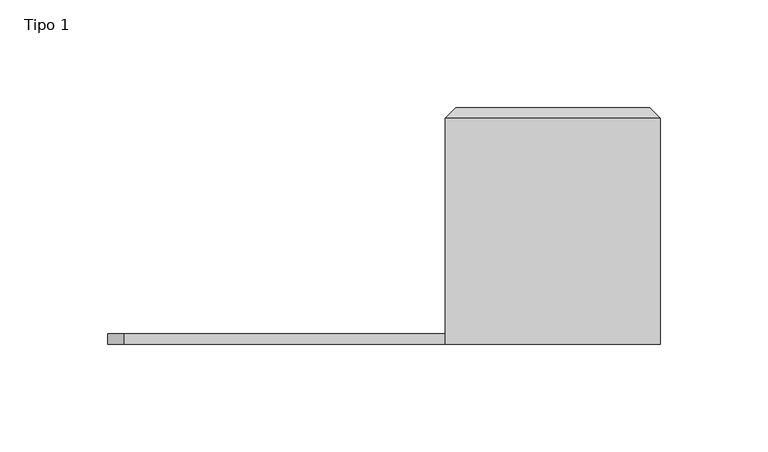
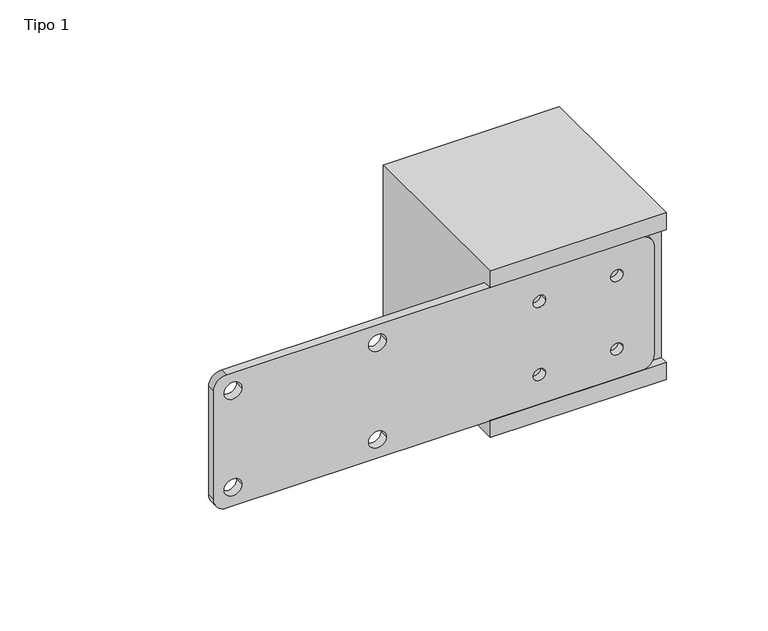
"""IFC4 building model written with IfcOpenShell, lengths in millimetres: proxy geometry, Ercole ANGOLAREorizzontale : Tipo 1."""

from ifc_helpers import new_model, si_unit, point, frame, frame_2d, origin, place, context, project, spatial, polyline, circle_curve, trimmed, segment, composite_curve, outline, extrude, faceted_brep, source, transform, mapped, element, save


def tipo_1_4cdb7944(model_context):
    return source(origin(), model_context, "Body", "SolidModel", [
        extrude(outline(polyline([(175.0, 629.7029033), (70.0, 629.7029033), (70.0, 639.7029304), (75.0, 639.7029304), (75.0, 719.7028762), (70.0, 719.7028762), (70.0, 729.7029033), (175.0, 729.7029033), (175.0, 629.7029033)])), frame((75.0, 0.0, 0.0), z_axis=(1.0, 0.0, 0.0), x_axis=(0.0, 1.0, 0.0)), (0.0, 0.0, 1.0), 100.0),
        faceted_brep([(80.0, 180.0, 724.7029033), (170.0, 180.0, 724.7029033), (170.0, 180.0, 634.7029033), (80.0, 180.0, 634.7029033), (75.0, 175.0, 729.7029033), (75.0, 175.0, 629.7029033), (175.0, 175.0, 629.7029033), (175.0, 175.0, 729.7029033)], [[[0, 1, 2, 3]], [[4, 5, 6, 7]], [[7, 1, 0, 4]], [[6, 2, 1, 7]], [[5, 3, 2, 6]], [[4, 0, 3, 5]]]),
        extrude(outline(composite_curve([segment(polyline([(647.2029304, 168.0888455), (712.2028762, 168.0888455)]), True, "CONTINUOUS"), segment(trimmed(circle_curve(frame_2d((712.2028762, 160.5888455)), 7.5), [point((712.2028762, 168.0888455))], [point((719.7028762, 160.5888455))], False, "CARTESIAN"), True, "CONTINUOUS"), segment(polyline([(719.7028762, 160.5888455), (719.7028762, -74.4107249)]), True, "CONTINUOUS"), segment(trimmed(circle_curve(frame_2d((712.2028762, -74.4107249)), 7.5), [point((719.7028762, -74.4107249))], [point((712.2028762, -81.9107249))], False, "CARTESIAN"), True, "CONTINUOUS"), segment(polyline([(712.2028762, -81.9107249), (647.2029304, -81.9107249)]), True, "CONTINUOUS"), segment(trimmed(circle_curve(frame_2d((647.2029304, -74.4107249)), 7.5), [point((647.2029304, -81.9107249))], [point((639.7029304, -74.4107249))], False, "CARTESIAN"), True, "CONTINUOUS"), segment(polyline([(639.7029304, -74.4107249), (639.7029304, 160.5888455)]), True, "CONTINUOUS"), segment(trimmed(circle_curve(frame_2d((647.2029304, 160.5888455)), 7.5), [point((639.7029304, 160.5888455))], [point((647.2029304, 168.0888455))], False, "CARTESIAN"), True, "CONTINUOUS")], self_intersect=False), holes=[composite_curve([segment(trimmed(circle_curve(frame_2d((650.9481238, 11.0787023)), 5.0), [point((650.9481238, 16.0787023))], [point((650.9481238, 6.0787023))], True, "CARTESIAN"), True, "CONTINUOUS"), segment(trimmed(circle_curve(frame_2d((650.9481238, 11.0787023)), 5.0), [point((650.9481238, 6.0787023))], [point((650.9481238, 16.0787023))], True, "CARTESIAN"), True, "CONTINUOUS")], self_intersect=False), composite_curve([segment(trimmed(circle_curve(frame_2d((708.9483905, 11.0831225)), 5.0), [point((708.9483905, 16.0831225))], [point((708.9483905, 6.0831225))], True, "CARTESIAN"), True, "CONTINUOUS"), segment(trimmed(circle_curve(frame_2d((708.9483905, 11.0831225)), 5.0), [point((708.9483905, 6.0831225))], [point((708.9483905, 16.0831225))], True, "CARTESIAN"), True, "CONTINUOUS")], self_intersect=False), composite_curve([segment(trimmed(circle_curve(frame_2d((701.7029193, 147.0)), 3.5), [point((701.7029193, 143.5))], [point((701.7029193, 150.5))], True, "CARTESIAN"), True, "CONTINUOUS"), segment(trimmed(circle_curve(frame_2d((701.7029193, 147.0)), 3.5), [point((701.7029193, 150.5))], [point((701.7029193, 143.5))], True, "CARTESIAN"), True, "CONTINUOUS")], self_intersect=False), composite_curve([segment(trimmed(circle_curve(frame_2d((657.7032048, 146.9999521)), 3.5), [point((657.7032048, 143.4999521))], [point((657.7032048, 150.4999521))], True, "CARTESIAN"), True, "CONTINUOUS"), segment(trimmed(circle_curve(frame_2d((657.7032048, 146.9999521)), 3.5), [point((657.7032048, 150.4999521))], [point((657.7032048, 143.4999521))], True, "CARTESIAN"), True, "CONTINUOUS")], self_intersect=False), composite_curve([segment(trimmed(circle_curve(frame_2d((701.7029193, 103.0)), 3.5), [point((701.7029193, 106.5))], [point((701.7029193, 99.5))], True, "CARTESIAN"), True, "CONTINUOUS"), segment(trimmed(circle_curve(frame_2d((701.7029193, 103.0)), 3.5), [point((701.7029193, 99.5))], [point((701.7029193, 106.5))], True, "CARTESIAN"), True, "CONTINUOUS")], self_intersect=False), composite_curve([segment(trimmed(circle_curve(frame_2d((657.7032048, 102.9999521)), 3.5), [point((657.7032048, 99.4999521))], [point((657.7032048, 106.4999521))], True, "CARTESIAN"), True, "CONTINUOUS"), segment(trimmed(circle_curve(frame_2d((657.7032048, 102.9999521)), 3.5), [point((657.7032048, 106.4999521))], [point((657.7032048, 99.4999521))], True, "CARTESIAN"), True, "CONTINUOUS")], self_intersect=False), composite_curve([segment(trimmed(circle_curve(frame_2d((708.9483684, -70.9108542)), 5.0), [point((708.9483684, -65.9108542))], [point((708.9483684, -75.9108542))], True, "CARTESIAN"), True, "CONTINUOUS"), segment(trimmed(circle_curve(frame_2d((708.9483684, -70.9108542)), 5.0), [point((708.9483684, -75.9108542))], [point((708.9483684, -65.9108542))], True, "CARTESIAN"), True, "CONTINUOUS")], self_intersect=False), composite_curve([segment(trimmed(circle_curve(frame_2d((650.9481017, -70.9064341)), 5.0), [point((650.9481017, -75.9064341))], [point((650.9481017, -65.9064341))], True, "CARTESIAN"), True, "CONTINUOUS"), segment(trimmed(circle_curve(frame_2d((650.9481017, -70.9064341)), 5.0), [point((650.9481017, -65.9064341))], [point((650.9481017, -75.9064341))], True, "CARTESIAN"), True, "CONTINUOUS")], self_intersect=False)]), frame((0.0, 70.0, 0.0), z_axis=(0.0, 1.0, 0.0), x_axis=(0.0, 0.0, 1.0)), (0.0, 0.0, 1.0), 5.0),
    ])


if __name__ == "__main__":
    model = new_model("IFC4")
    model_context = context("Model", 3, world=origin())
    ifc_project = project(units=[si_unit("LENGTHUNIT", "METRE", prefix="MILLI")], contexts=[model_context])
    site = spatial("IfcSite", under=ifc_project)
    building = spatial("IfcBuilding", under=site)
    placement = place(None, origin())
    tipo_1_shape = tipo_1_4cdb7944(model_context)
    element("IfcBuildingElementProxy", 1, Name="Ercole ANGOLAREorizzontale : Tipo 1", ObjectType="Ercole ANGOLAREorizzontale : Tipo 1", at=placement, inside=building, context=model_context, shape_type="MappedRepresentation", body=[
        mapped(tipo_1_shape, transform((0.0, 0.0, 0.0), x_axis=(1.0, 0.0, 0.0), y_axis=(0.0, 1.0, 0.0), z_axis=(0.0, 0.0, 1.0))),
    ])
    save(model, "model.ifc")
